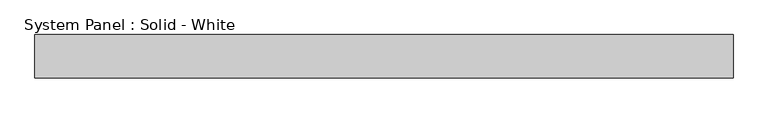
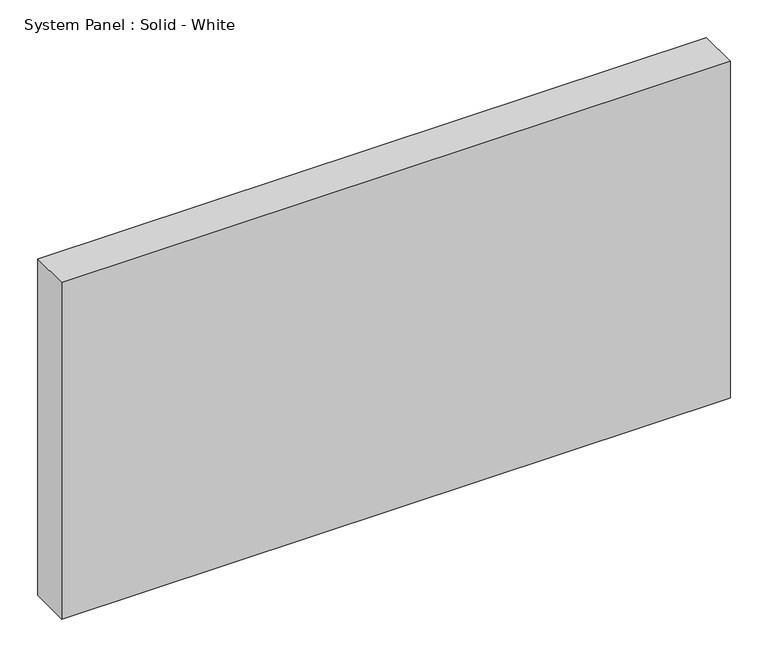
"""IFC4 building model written with IfcOpenShell, lengths in millimetres: plate geometry, System Panel : Solid - White."""

from ifc_helpers import new_model, si_unit, origin, origin_with_axes, place, context, project, spatial, polyline, outline, extrude, source, transform, mapped, element, save


def system_panel_solid_white_8d40a833(model_context):
    return source(origin(), model_context, "Body", "SweptSolid", [
        extrude(outline(polyline([(513.08, -19.05), (-513.08, -19.05), (-513.08, 44.45), (513.08, 44.45), (513.08, -19.05)])), origin_with_axes(), (0.0, 0.0, 1.0), 546.1),
    ])


if __name__ == "__main__":
    model = new_model("IFC4")
    model_context = context("Model", 3, world=origin())
    ifc_project = project(units=[si_unit("LENGTHUNIT", "METRE", prefix="MILLI")], contexts=[model_context])
    site = spatial("IfcSite", under=ifc_project)
    building = spatial("IfcBuilding", under=site)
    placement = place(None, origin())
    system_panel_solid_white_shape = system_panel_solid_white_8d40a833(model_context)
    element("IfcPlate", 1, ObjectType="System Panel : Solid - White", at=placement, inside=building, context=model_context, shape_type="MappedRepresentation", body=[
        mapped(system_panel_solid_white_shape, transform((0.0, 0.0, 0.0), x_axis=(1.0, 0.0, 0.0), y_axis=(0.0, 1.0, 0.0), z_axis=(0.0, 0.0, 1.0))),
    ])
    save(model, "model.ifc")
